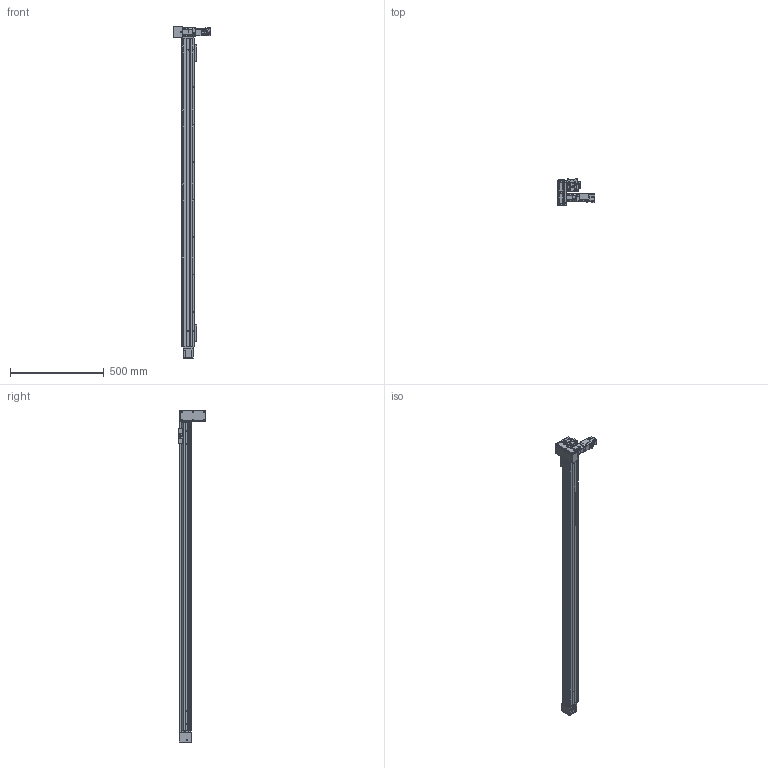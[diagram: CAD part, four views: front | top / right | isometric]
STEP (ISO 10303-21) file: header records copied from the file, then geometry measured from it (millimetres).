
FILE_DESCRIPTION(/* description */ (''),/* implementation_level */ '2;1');
FILE_NAME(/* name */ '\\192.168.0.160\disk1\HAN SHIN Master\B-설계부문\C-표준\B-2024년\BC02-표준도면\+로봇 개선표준도면\홈페이지 표준 도면\홈페이지 최종 작업 폴더\3D\HSB\HSB55\HSB55-DL1G-N-1500-R.stp',/* time_stamp */ '2025-06-19T20:27:55+09:00',/* author */ ('user'),/* organization */ (''),/* preprocessor_version */ 'ST-DEVELOPER v18.1',/* originating_system */ 'Autodesk Inventor 2022',/* authorisation */ '');
FILE_SCHEMA (('AUTOMOTIVE_DESIGN { 1 0 10303 214 3 1 1 }'));
Products named in the file (41): HSB55-DL1G-N-0500-R; HSB55 BASE; HSB55 TABLE; UPCOVER; HSB55 HOUSING (Connecting); HSB160 SHAFT-1; HSB55 FRONT HOUSIONG; HSB55 REAR SHAFT-1; HSB55 REAR SHAFT; HSB55 DOWN CLAMP; M4-25(렌치볼트); HSB55 HOUSING-R1; HSB55 TENSION PLATE; ISO 4032 - M4; HSB160 BEARING OVER; HSB55 UP CLAMP; HR45 SENSOR DOG; HR45 SENSOR RAIL; hsr_ftht_A-M6F_grease_nipple_joint; NIPPLE CAP(신규); SIDE COVER_대칭도; SIDE COVER; HR45 STOPPER; HSB55 END COVER; EC-6202ZZ; EC-6202ZZ Inner ring; EC-6202ZZ Outer ring; EC-6202ZZ St; EC-6202ZZ Ball; EC-6202ZZ B1; HSB55 ACRYL COVER-R1; HSB55 ACRYL COVER; EE_SX674A; PGX44-H-1_3; hg-kr13_; MOTOR PLATE-100W(MITSUBISHI); HR65-BELT COVER-COVER; HR65-BELT COVER-COVER3; HSB55 D MOTOR PLATE; HSB55 D BELT COVER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
Assembly tree (64 placements, depth 3):
  HSB55-DL1G-N-0500-R
    HSB55 BASE
    HSB55 TABLE
    UPCOVER
    HSB55 FRONT HOUSIONG  x2
    HSB55 HOUSING (Connecting)
    HSB160 SHAFT-1
    HSB55 REAR SHAFT-1
    #130674  x2
    HSB55 REAR SHAFT
    HSB55 DOWN CLAMP  x2
    HSB55 UP CLAMP  x2
    M4-25(렌치볼트)
    ISO 4032 - M4  x2
    HSB55 HOUSING-R1
    HSB55 TENSION PLATE  x2
    HSB160 BEARING OVER
    HR45 SENSOR DOG
    HR45 SENSOR RAIL  x2
    EE_SX674A  x3
    hsr_ftht_A-M6F_grease_nipple_joint
    NIPPLE CAP(신규)
    SIDE COVER_대칭도
    SIDE COVER
    HR45 STOPPER  x2
    HSB55 END COVER
    EC-6202ZZ  x2
      EC-6202ZZ Inner ring
      EC-6202ZZ Outer ring
      EC-6202ZZ B1
      EC-6202ZZ St
      EC-6202ZZ Ball
    HSB55 ACRYL COVER  x4
    HSB55 ACRYL COVER-R1
    PGX44-H-1_3
    hg-kr13_
    MOTOR PLATE-100W(MITSUBISHI)
    HR65-BELT COVER-COVER
    HR65-BELT COVER-COVER3
    HSB55 D MOTOR PLATE
    HSB55 D BELT COVER
    HR65-BELT COVER-COVER2  x2
Bounding box: 201.4 x 142.7 x 1770 mm (x, y, z)
Volume: 2996415.3 mm3; surface area: 1371195.4 mm2
Topology: 90 solids, 90 shells, 5203 faces, 14261 edges, 9339 vertices
Faces by surface type: plane 3600, cylinder 1239, cone 285, torus 35, sphere 22, bspline 22
Full cylindrical faces by diameter (mm): 1 x2, 2 x3, 2.013 x4, 2.459 x102, 2.5 x5, 3 x3, 3.242 x74, 3.3 x9, 3.4 x22, 3.5 x75, 4 x11, 4.134 x18, 4.2 x4, 4.5 x45, 4.917 x2, 5 x8, 5.5 x1, 5.6 x3, 5.9 x2, 6 x46, 6.5 x4, 7 x5, 7.5 x4, 8 x17, 8.2 x1, 9 x2, 9.5 x2, 10 x1, 11.5 x2, 12 x6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
Entity records: 130628 total; most frequent: CARTESIAN_POINT 26465, ORIENTED_EDGE 21376, DIRECTION 20989, EDGE_CURVE 10688, LINE 7589, VECTOR 7589, VERTEX_POINT 7039, AXIS2_PLACEMENT_3D 6700
